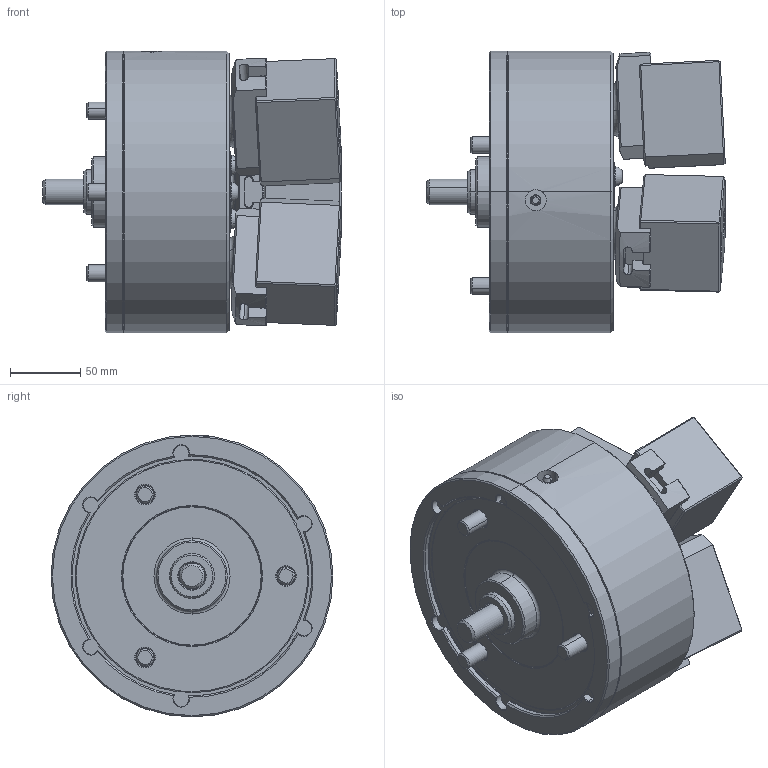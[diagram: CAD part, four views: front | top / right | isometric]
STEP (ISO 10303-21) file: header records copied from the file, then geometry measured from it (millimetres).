
FILE_DESCRIPTION (( 'STEP AP214' ), '1' );
FILE_NAME ('PW-08_UC.STEP', '2019-10-16T09:46:39', ( '' ), ( '' ), 'SwSTEP 2.0', 'SolidWorks 2017', '' );
FILE_SCHEMA (( 'AUTOMOTIVE_DESIGN' ));
Length unit declared in the file: millimetre
Products named in the file (5): PW-08_UC; 61P322995; 61P420336; 0030112020; 結合_OD
Assembly tree (13 placements, depth 2):
  PW-08_UC
    61P322995  x3
    61P420336  x3
    0030112020  x6
    結合_OD
Bounding box: 211.7 x 200 x 200 mm (x, y, z)
Volume: 3460506.2 mm3; surface area: 313874.4 mm2
Topology: 13 solids, 14 shells, 1769 faces, 4378 edges, 2746 vertices
Faces by surface type: plane 859, cone 304, cylinder 275, bspline 265, torus 66
Entity records: 54556 total; most frequent: CARTESIAN_POINT 21023, ORIENTED_EDGE 7382, DIRECTION 6012, EDGE_CURVE 3691, VERTEX_POINT 2343, AXIS2_PLACEMENT_3D 2009, LINE 1994, VECTOR 1994
